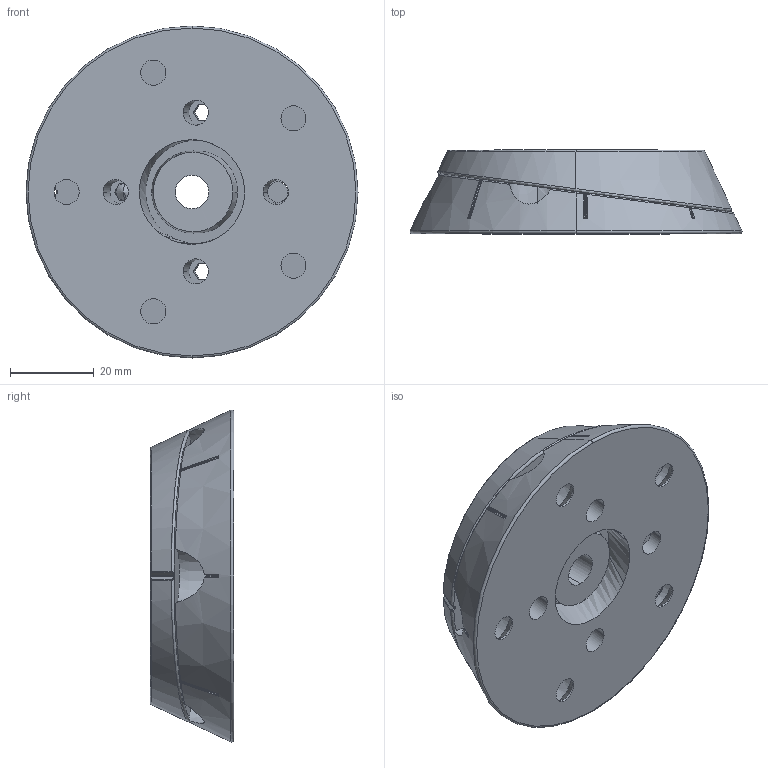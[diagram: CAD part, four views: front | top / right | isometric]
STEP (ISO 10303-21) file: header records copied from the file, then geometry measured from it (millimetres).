
FILE_DESCRIPTION (( 'STEP AP203' ), '1' );
FILE_NAME ('06.11.130-0 Twistn Turn 0dg_Ext. faces.STEP', '2021-03-08T11:03:21', ( '' ), ( '' ), 'SwSTEP 2.0', 'SolidWorks 2020', '' );
FILE_SCHEMA (( 'CONFIG_CONTROL_DESIGN' ));
Length unit declared in the file: millimetre
Products named in the file (1): 06.11.130-0 Twistn Turn 0dg_Ext. faces
Bounding box: 79.43 x 20 x 79.43 mm (x, y, z)
Surface area: 23996.4 mm2 (no closed solid volume)
Topology: 0 solids, 7 shells, 259 faces, 731 edges, 472 vertices
Faces by surface type: bspline 92, cone 63, plane 52, cylinder 47, torus 5
Entity records: 11899 total; most frequent: CARTESIAN_POINT 6011, ORIENTED_EDGE 1352, DIRECTION 1002, EDGE_CURVE 729, VERTEX_POINT 472, AXIS2_PLACEMENT_3D 398, EDGE_LOOP 302, FACE_OUTER_BOUND 259
